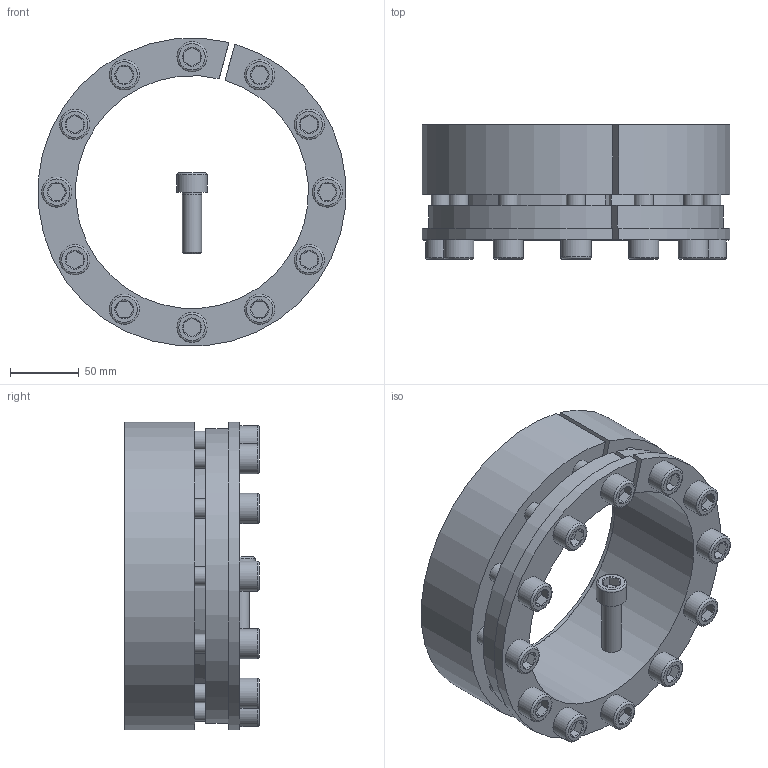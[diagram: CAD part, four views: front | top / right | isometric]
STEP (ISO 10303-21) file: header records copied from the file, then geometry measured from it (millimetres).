
FILE_DESCRIPTION( ( 'Unknown' ), '1' );
FILE_NAME( 'C:/Dokumente und Einstellungen/Sven/Desktop/homepage/cad - homepage/KBS70/KBS 70 - 170 x 225.stp', 'Unknown', ( 'Unknown' ), ( 'Unknown' ), 'XStep 1.0', 'Unknown', ' ' );
FILE_SCHEMA( ( 'automotive_design' ) );
Length unit declared in the file: millimetre
Products named in the file (3): Assem1; KBS 70 - 170 x 225; ISO EN DIN 4762 M14x45
Bounding box: 224.34 x 98 x 224.33 mm (x, y, z)
Volume: 2382690.8 mm3; surface area: 452483.6 mm2
Topology: 15 solids, 15 shells, 401 faces, 819 edges, 500 vertices
Faces by surface type: plane 172, cylinder 108, cone 95, torus 26
Full cylindrical faces by diameter (mm): 12 x13, 14 x74, 22 x13
Entity records: 2254 total; most frequent: CARTESIAN_POINT 361, DIRECTION 340, ORIENTED_EDGE 238, AXIS2_PLACEMENT_3D 154, EDGE_LOOP 146, EDGE_CURVE 119, VERTEX_POINT 95, FACE_OUTER_BOUND 93
